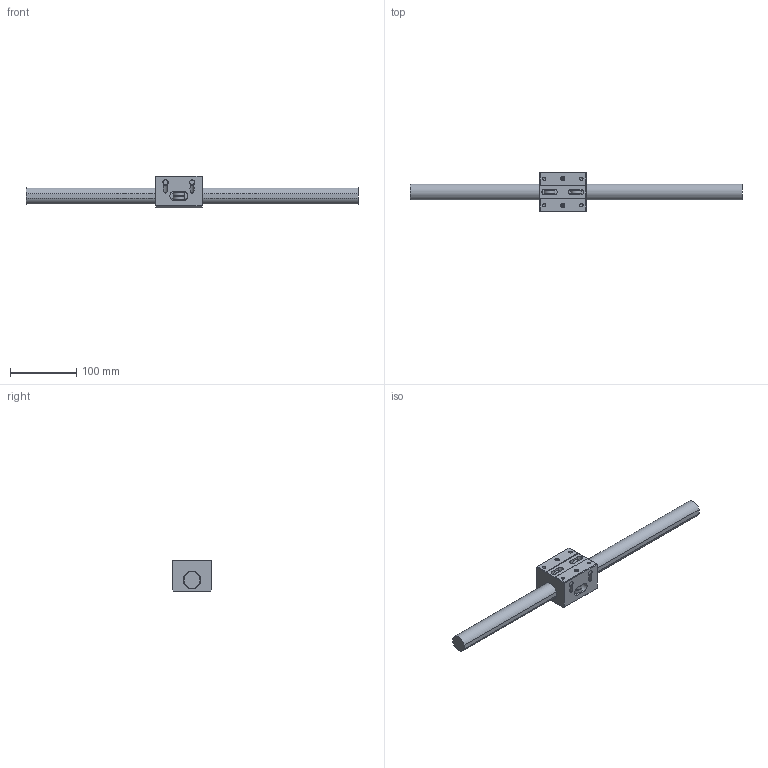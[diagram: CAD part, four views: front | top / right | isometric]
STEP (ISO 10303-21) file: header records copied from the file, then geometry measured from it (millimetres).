
FILE_DESCRIPTION((''),'2;1');
FILE_NAME('D:\製品 (図面)\カタログ用3D\リニアガイド関連\STEP形式\LT\LT25.stp','2010-06-02T16:05:09',('Tsuchiya'),(''),'Autodesk Inventor 10','Autodesk Inventor 10','');
FILE_SCHEMA(('AUTOMOTIVE_DESIGN { 1 0 10303 214 1 1 1 1 }'));
Length unit declared in the file: millimetre
Products named in the file (3): LT25; LT251; LT252
Assembly tree (2 placements, depth 2):
  LT25
    LT251
    LT252
Bounding box: 500 x 60 x 48 mm (x, y, z)
Volume: 382498.1 mm3; surface area: 77853.4 mm2
Topology: 2 solids, 2 shells, 239 faces, 558 edges, 360 vertices
Faces by surface type: bspline 97, plane 75, cylinder 37, cone 26, torus 4
Full cylindrical faces by diameter (mm): 4.917 x2, 5 x4, 5.5 x4, 6.5 x4, 8 x6, 16 x3, 17 x2, 18 x2, 27 x1
Entity records: 7284 total; most frequent: CARTESIAN_POINT 2767, ORIENTED_EDGE 820, DIRECTION 804, EDGE_CURVE 410, EDGE_LOOP 406, VERTEX_POINT 316, AXIS2_PLACEMENT_3D 309, FACE_OUTER_BOUND 239
